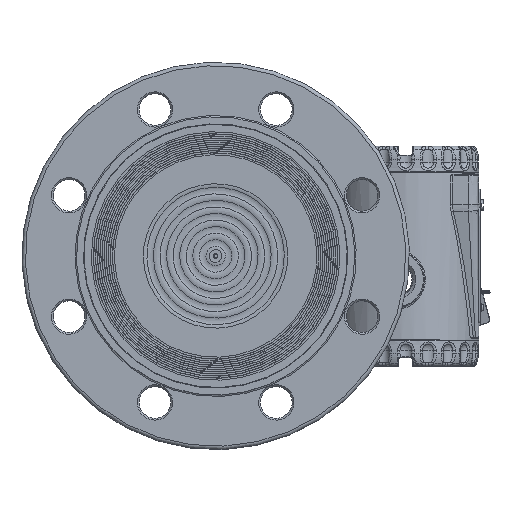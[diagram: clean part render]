
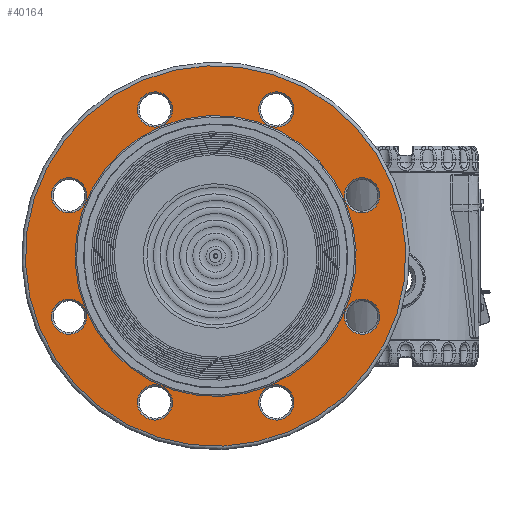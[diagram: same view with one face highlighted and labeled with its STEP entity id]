
A CAD part, top view. The second image highlights one B-rep face of the part: STEP entity #40164.
In plain terms, the highlighted planar face has unit normal (0, 0, 1) as drawn and (-1, 0, 0) by its records, which use the part's own axes.
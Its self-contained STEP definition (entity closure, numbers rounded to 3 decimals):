
#669=FACE_BOUND('',#6639,.T.);
#670=FACE_BOUND('',#6640,.T.);
#671=FACE_BOUND('',#6641,.T.);
#672=FACE_BOUND('',#6642,.T.);
#673=FACE_BOUND('',#6643,.T.);
#674=FACE_BOUND('',#6644,.T.);
#675=FACE_BOUND('',#6645,.T.);
#676=FACE_BOUND('',#6646,.T.);
#677=FACE_BOUND('',#6647,.T.);
#2588=PLANE('',#44620);
#3958=FACE_OUTER_BOUND('',#6638,.T.);
#6638=EDGE_LOOP('',(#30672,#30673));
#6639=EDGE_LOOP('',(#30674));
#6640=EDGE_LOOP('',(#30675));
#6641=EDGE_LOOP('',(#30676));
#6642=EDGE_LOOP('',(#30677));
#6643=EDGE_LOOP('',(#30678,#30679));
#6644=EDGE_LOOP('',(#30680));
#6645=EDGE_LOOP('',(#30681));
#6646=EDGE_LOOP('',(#30682));
#6647=EDGE_LOOP('',(#30683));
#13262=CIRCLE('',#44619,10.);
#13263=CIRCLE('',#44621,108.);
#13264=CIRCLE('',#44622,108.);
#13265=CIRCLE('',#44623,10.);
#13266=CIRCLE('',#44624,10.);
#13267=CIRCLE('',#44625,10.);
#13268=CIRCLE('',#44626,10.);
#13269=CIRCLE('',#44627,79.8);
#13270=CIRCLE('',#44628,79.8);
#13271=CIRCLE('',#44629,10.);
#13272=CIRCLE('',#44630,10.);
#13273=CIRCLE('',#44631,10.);
#17605=VERTEX_POINT('',#70997);
#17606=VERTEX_POINT('',#71001);
#17607=VERTEX_POINT('',#71002);
#17608=VERTEX_POINT('',#71005);
#17609=VERTEX_POINT('',#71007);
#17610=VERTEX_POINT('',#71009);
#17611=VERTEX_POINT('',#71011);
#17612=VERTEX_POINT('',#71013);
#17613=VERTEX_POINT('',#71014);
#17614=VERTEX_POINT('',#71017);
#17615=VERTEX_POINT('',#71019);
#17616=VERTEX_POINT('',#71021);
#22240=EDGE_CURVE('',#17605,#17605,#13262,.T.);
#22242=EDGE_CURVE('',#17606,#17607,#13263,.T.);
#22243=EDGE_CURVE('',#17607,#17606,#13264,.T.);
#22244=EDGE_CURVE('',#17608,#17608,#13265,.T.);
#22245=EDGE_CURVE('',#17609,#17609,#13266,.T.);
#22246=EDGE_CURVE('',#17610,#17610,#13267,.T.);
#22247=EDGE_CURVE('',#17611,#17611,#13268,.T.);
#22248=EDGE_CURVE('',#17612,#17613,#13269,.T.);
#22249=EDGE_CURVE('',#17613,#17612,#13270,.T.);
#22250=EDGE_CURVE('',#17614,#17614,#13271,.T.);
#22251=EDGE_CURVE('',#17615,#17615,#13272,.T.);
#22252=EDGE_CURVE('',#17616,#17616,#13273,.T.);
#30672=ORIENTED_EDGE('',*,*,#22242,.F.);
#30673=ORIENTED_EDGE('',*,*,#22243,.F.);
#30674=ORIENTED_EDGE('',*,*,#22244,.F.);
#30675=ORIENTED_EDGE('',*,*,#22245,.F.);
#30676=ORIENTED_EDGE('',*,*,#22246,.F.);
#30677=ORIENTED_EDGE('',*,*,#22247,.F.);
#30678=ORIENTED_EDGE('',*,*,#22248,.T.);
#30679=ORIENTED_EDGE('',*,*,#22249,.T.);
#30680=ORIENTED_EDGE('',*,*,#22250,.F.);
#30681=ORIENTED_EDGE('',*,*,#22251,.F.);
#30682=ORIENTED_EDGE('',*,*,#22252,.F.);
#30683=ORIENTED_EDGE('',*,*,#22240,.F.);
#40164=ADVANCED_FACE('',(#3958,#669,#670,#671,#672,#673,#674,#675,#676,
#677),#2588,.T.);
#44619=AXIS2_PLACEMENT_3D('',#70998,#52546,#52547);
#44620=AXIS2_PLACEMENT_3D('',#71000,#52549,#52550);
#44621=AXIS2_PLACEMENT_3D('',#71003,#52551,#52552);
#44622=AXIS2_PLACEMENT_3D('',#71004,#52553,#52554);
#44623=AXIS2_PLACEMENT_3D('',#71006,#52555,#52556);
#44624=AXIS2_PLACEMENT_3D('',#71008,#52557,#52558);
#44625=AXIS2_PLACEMENT_3D('',#71010,#52559,#52560);
#44626=AXIS2_PLACEMENT_3D('',#71012,#52561,#52562);
#44627=AXIS2_PLACEMENT_3D('',#71015,#52563,#52564);
#44628=AXIS2_PLACEMENT_3D('',#71016,#52565,#52566);
#44629=AXIS2_PLACEMENT_3D('',#71018,#52567,#52568);
#44630=AXIS2_PLACEMENT_3D('',#71020,#52569,#52570);
#44631=AXIS2_PLACEMENT_3D('',#71022,#52571,#52572);
#52546=DIRECTION('center_axis',(-1.,0.,0.));
#52547=DIRECTION('ref_axis',(0.,-0.707,-0.707));
#52549=DIRECTION('center_axis',(-1.,0.,0.));
#52550=DIRECTION('ref_axis',(0.,0.,1.));
#52551=DIRECTION('center_axis',(1.,0.,0.));
#52552=DIRECTION('ref_axis',(0.,1.,0.));
#52553=DIRECTION('center_axis',(1.,0.,0.));
#52554=DIRECTION('ref_axis',(0.,1.,0.));
#52555=DIRECTION('center_axis',(-1.,0.,0.));
#52556=DIRECTION('ref_axis',(0.,-1.,0.));
#52557=DIRECTION('center_axis',(-1.,0.,0.));
#52558=DIRECTION('ref_axis',(0.,0.,1.));
#52559=DIRECTION('center_axis',(-1.,0.,0.));
#52560=DIRECTION('ref_axis',(0.,1.,0.));
#52561=DIRECTION('center_axis',(-1.,0.,0.));
#52562=DIRECTION('ref_axis',(0.,0.,-1.));
#52563=DIRECTION('center_axis',(1.,0.,0.));
#52564=DIRECTION('ref_axis',(0.,1.,0.));
#52565=DIRECTION('center_axis',(1.,0.,0.));
#52566=DIRECTION('ref_axis',(0.,1.,0.));
#52567=DIRECTION('center_axis',(-1.,0.,0.));
#52568=DIRECTION('ref_axis',(0.,0.707,-0.707));
#52569=DIRECTION('center_axis',(-1.,0.,0.));
#52570=DIRECTION('ref_axis',(0.,0.707,0.707));
#52571=DIRECTION('center_axis',(-1.,0.,0.));
#52572=DIRECTION('ref_axis',(0.,-0.707,0.707));
#70997=CARTESIAN_POINT('',(3.,70.711,70.711));
#70998=CARTESIAN_POINT('Origin',(3.,63.64,63.64));
#71000=CARTESIAN_POINT('Origin',(3.,93.9,0.));
#71001=CARTESIAN_POINT('',(3.,108.,0.));
#71002=CARTESIAN_POINT('',(3.,0.,108.));
#71003=CARTESIAN_POINT('Origin',(3.,0.,0.));
#71004=CARTESIAN_POINT('Origin',(3.,0.,0.));
#71005=CARTESIAN_POINT('',(3.,100.,0.));
#71006=CARTESIAN_POINT('Origin',(3.,90.,0.));
#71007=CARTESIAN_POINT('',(3.,0.,-100.));
#71008=CARTESIAN_POINT('Origin',(3.,0.,-90.));
#71009=CARTESIAN_POINT('',(3.,-100.,0.));
#71010=CARTESIAN_POINT('Origin',(3.,-90.,0.));
#71011=CARTESIAN_POINT('',(3.,0.,100.));
#71012=CARTESIAN_POINT('Origin',(3.,0.,90.));
#71013=CARTESIAN_POINT('',(3.,79.8,0.));
#71014=CARTESIAN_POINT('',(3.,0.,79.8));
#71015=CARTESIAN_POINT('Origin',(3.,0.,0.));
#71016=CARTESIAN_POINT('Origin',(3.,0.,0.));
#71017=CARTESIAN_POINT('',(3.,-70.711,70.711));
#71018=CARTESIAN_POINT('Origin',(3.,-63.64,63.64));
#71019=CARTESIAN_POINT('',(3.,-70.711,-70.711));
#71020=CARTESIAN_POINT('Origin',(3.,-63.64,-63.64));
#71021=CARTESIAN_POINT('',(3.,70.711,-70.711));
#71022=CARTESIAN_POINT('Origin',(3.,63.64,-63.64));
